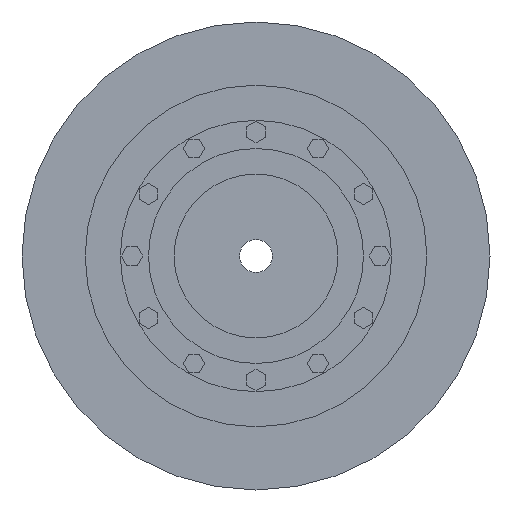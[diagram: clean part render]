
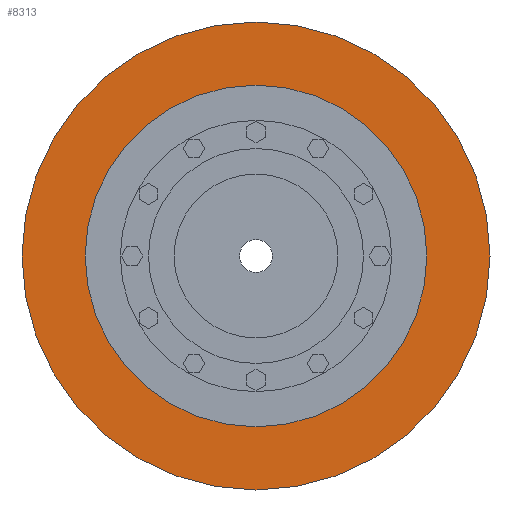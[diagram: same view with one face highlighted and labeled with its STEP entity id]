
A CAD part, left-side view. The second image highlights one B-rep face of the part: STEP entity #8313.
In plain terms, the highlighted planar face has unit normal (-1, 0, 0).
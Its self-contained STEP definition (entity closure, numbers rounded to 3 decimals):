
#8110=CARTESIAN_POINT('',(-46.,0.,0.));
#8111=DIRECTION('',(-1.,0.,0.));
#8112=DIRECTION('',(0.,1.,0.));
#8113=AXIS2_PLACEMENT_3D('',#8110,#8111,#8112);
#8115=CARTESIAN_POINT('',(-46.,0.,0.));
#8116=DIRECTION('',(1.,0.,0.));
#8117=DIRECTION('',(0.,1.,0.));
#8118=AXIS2_PLACEMENT_3D('',#8115,#8116,#8117);
#8120=CARTESIAN_POINT('',(-46.,0.,0.));
#8121=DIRECTION('',(1.,0.,0.));
#8122=DIRECTION('',(0.,1.,0.));
#8123=AXIS2_PLACEMENT_3D('',#8120,#8121,#8122);
#8133=CARTESIAN_POINT('',(-46.,0.,0.));
#8134=DIRECTION('',(-1.,0.,0.));
#8135=DIRECTION('',(0.,1.,0.));
#8136=AXIS2_PLACEMENT_3D('',#8133,#8134,#8135);
#8156=CARTESIAN_POINT('',(-46.,166.8,0.));
#8158=VERTEX_POINT('',#8156);
#8168=CARTESIAN_POINT('',(-46.,-166.8,0.));
#8170=VERTEX_POINT('',#8168);
#8173=CARTESIAN_POINT('',(-46.,228.5,0.));
#8175=VERTEX_POINT('',#8173);
#8177=CARTESIAN_POINT('',(-46.,-228.5,0.));
#8179=VERTEX_POINT('',#8177);
#8298=CARTESIAN_POINT('',(-46.,0.,0.));
#8299=DIRECTION('',(1.,0.,0.));
#8300=DIRECTION('',(0.,-1.,0.));
#8301=AXIS2_PLACEMENT_3D('',#8298,#8299,#8300);
#8302=PLANE('',#8301);
#8303=ORIENTED_EDGE('',*,*,#8291,.F.);
#8304=ORIENTED_EDGE('',*,*,#8280,.T.);
#8305=EDGE_LOOP('',(#8303,#8304));
#8306=FACE_OUTER_BOUND('',#8305,.F.);
#8308=ORIENTED_EDGE('',*,*,#8307,.F.);
#8310=ORIENTED_EDGE('',*,*,#8309,.T.);
#8311=EDGE_LOOP('',(#8308,#8310));
#8312=FACE_BOUND('',#8311,.F.);
#8313=ADVANCED_FACE('',(#8306,#8312),#8302,.F.);
#8114=CIRCLE('',#8113,228.5);
#8119=CIRCLE('',#8118,228.5);
#8124=CIRCLE('',#8123,166.8);
#8137=CIRCLE('',#8136,166.8);
#8280=EDGE_CURVE('',#8175,#8179,#8119,.T.);
#8291=EDGE_CURVE('',#8175,#8179,#8114,.T.);
#8307=EDGE_CURVE('',#8158,#8170,#8124,.T.);
#8309=EDGE_CURVE('',#8158,#8170,#8137,.T.);
